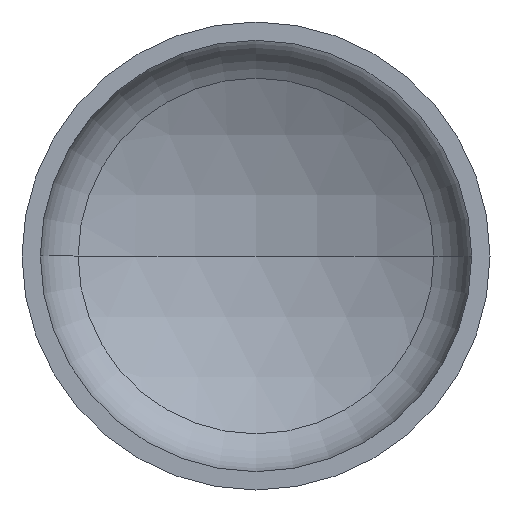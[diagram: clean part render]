
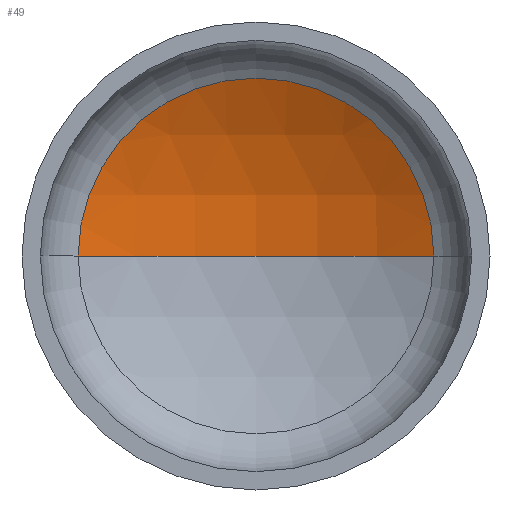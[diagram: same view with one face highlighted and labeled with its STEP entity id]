
A CAD part, front view. The second image highlights one B-rep face of the part: STEP entity #49.
In plain terms, the highlighted spherical face has radius 2080 mm.
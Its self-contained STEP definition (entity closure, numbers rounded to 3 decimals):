
#1 = AXIS2_PLACEMENT_3D ( 'NONE', #110, #81, #75 ) ;
#3 = EDGE_LOOP ( 'NONE', ( #315, #392, #15 ) ) ;
#15 = ORIENTED_EDGE ( 'NONE', *, *, #326, .T. ) ;
#16 = AXIS2_PLACEMENT_3D ( 'NONE', #130, #127, #128 ) ;
#43 = AXIS2_PLACEMENT_3D ( 'NONE', #281, #359, #233 ) ;
#49 = ADVANCED_FACE ( 'NONE', ( #340 ), #203, .F. ) ;
#60 = CARTESIAN_POINT ( 'NONE',  ( 0., -1403.376, 0. ) ) ;
#75 = DIRECTION ( 'NONE',  ( 1., 0., 0. ) ) ;
#81 = DIRECTION ( 'NONE',  ( 0., 0., 1. ) ) ;
#110 = CARTESIAN_POINT ( 'NONE',  ( 0., -1403.376, 0. ) ) ;
#113 = VERTEX_POINT ( 'NONE', #292 ) ;
#116 = CIRCLE ( 'NONE', #1, 2080. ) ;
#125 = CIRCLE ( 'NONE', #16, 988. ) ;
#127 = DIRECTION ( 'NONE',  ( 0., -1., 0. ) ) ;
#128 = DIRECTION ( 'NONE',  ( 1., 0., 0. ) ) ;
#130 = CARTESIAN_POINT ( 'NONE',  ( 0., 426.994, 0. ) ) ;
#142 = DIRECTION ( 'NONE',  ( -1., 0., 0. ) ) ;
#152 = CARTESIAN_POINT ( 'NONE',  ( 988., 426.994, 0. ) ) ;
#161 = VERTEX_POINT ( 'NONE', #165 ) ;
#165 = CARTESIAN_POINT ( 'NONE',  ( 0., 676.624, 0. ) ) ;
#166 = DIRECTION ( 'NONE',  ( 0., 0., -1. ) ) ;
#203 = SPHERICAL_SURFACE ( 'NONE', #43, 2080. ) ;
#233 = DIRECTION ( 'NONE',  ( -1., 0., 0. ) ) ;
#281 = CARTESIAN_POINT ( 'NONE',  ( 0., -1403.376, 0. ) ) ;
#289 = VERTEX_POINT ( 'NONE', #152 ) ;
#292 = CARTESIAN_POINT ( 'NONE',  ( -988., 426.994, 0. ) ) ;
#315 = ORIENTED_EDGE ( 'NONE', *, *, #377, .F. ) ;
#326 = EDGE_CURVE ( 'NONE', #289, #113, #125, .T. ) ;
#340 = FACE_OUTER_BOUND ( 'NONE', #3, .T. ) ;
#359 = DIRECTION ( 'NONE',  ( 0., 0., -1. ) ) ;
#377 = EDGE_CURVE ( 'NONE', #161, #113, #116, .T. ) ;
#379 = EDGE_CURVE ( 'NONE', #161, #289, #397, .T. ) ;
#392 = ORIENTED_EDGE ( 'NONE', *, *, #379, .T. ) ;
#397 = CIRCLE ( 'NONE', #399, 2080. ) ;
#399 = AXIS2_PLACEMENT_3D ( 'NONE', #60, #166, #142 ) ;
